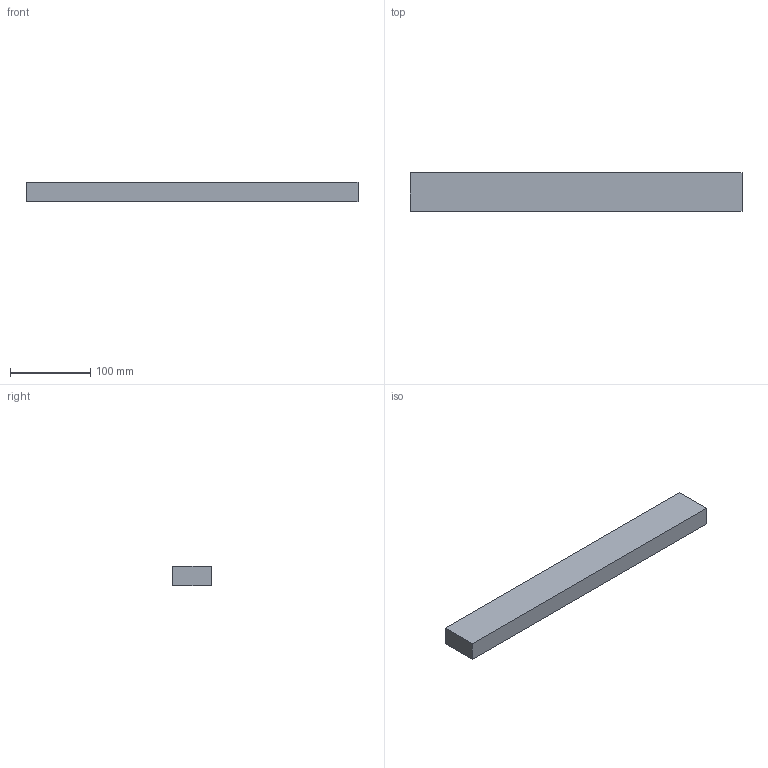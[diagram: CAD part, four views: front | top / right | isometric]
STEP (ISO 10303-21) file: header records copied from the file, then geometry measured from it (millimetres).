
FILE_DESCRIPTION (( 'STEP AP203' ), '1' );
FILE_NAME ('Tasseau_415_Deflecteur.STEP', '2026-06-24T07:29:51', ( '' ), ( '' ), 'SwSTEP 2.0', 'SolidWorks 2024', '' );
FILE_SCHEMA (( 'CONFIG_CONTROL_DESIGN' ));
Length unit declared in the file: millimetre
Products named in the file (1): Tasseau_415_Deflecteur
Bounding box: 415 x 48 x 24 mm (x, y, z)
Volume: 478080 mm3; surface area: 62064 mm2
Topology: 1 solids, 1 shells, 6 faces, 12 edges, 8 vertices
Faces by surface type: plane 6
Entity records: 231 total; most frequent: CARTESIAN_POINT 27, DIRECTION 26, ORIENTED_EDGE 24, LINE 12, EDGE_CURVE 12, VECTOR 12, VERTEX_POINT 8, PERSON_AND_ORGANIZATION 8
